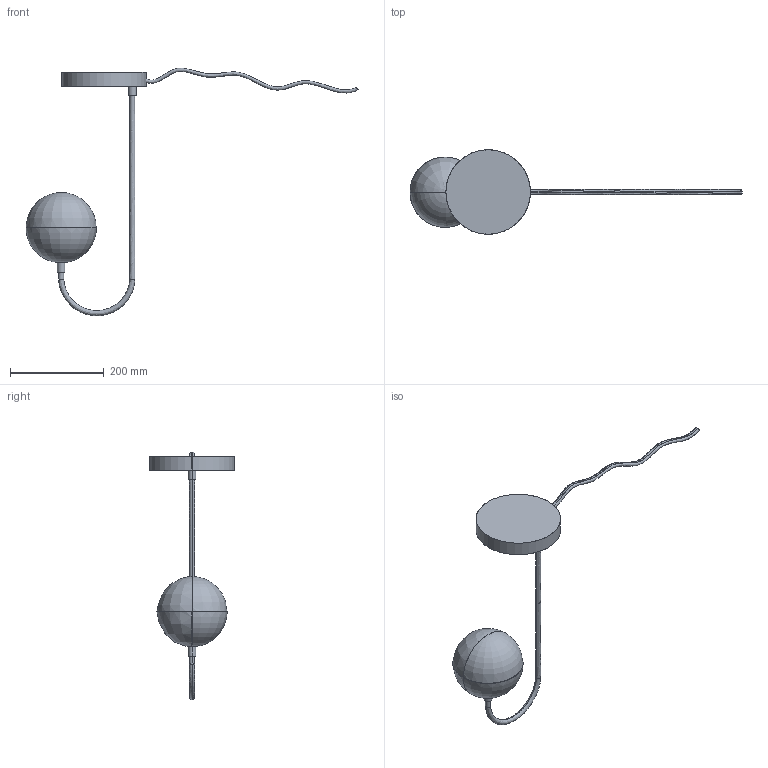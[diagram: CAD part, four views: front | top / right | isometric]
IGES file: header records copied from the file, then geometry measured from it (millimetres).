
Start section: SolidWorks IGES file using analytic representation for surfaces
Global section: file name: F:\李明祥\3D\8月\8月待上传\Cedar Moss Table Lamp.IGS; native system: SolidWorks 2022; preprocessor: SolidWorks 2022; author: MyPC; date: 230829.102101; units: millimetre
Bounding box: 707.42 x 180 x 527.44 mm (x, y, z)
Surface area: 229788.2 mm2 (no closed solid volume)
Topology: 0 solids, 0 shells, 33 faces, 728 edges, 725 vertices
Faces by surface type: bspline 17, revolution 16
